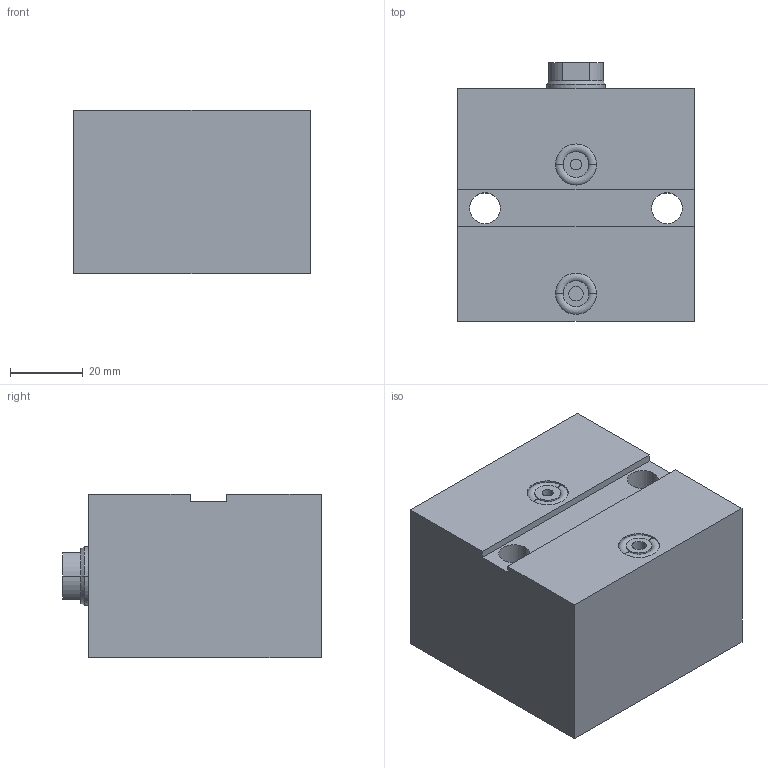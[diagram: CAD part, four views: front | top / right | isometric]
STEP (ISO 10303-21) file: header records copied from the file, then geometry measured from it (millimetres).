
FILE_DESCRIPTION (( 'STEP AP203' ), '1' );
FILE_NAME ('GERMA_Blockzylinder_604-025-020.STEP', '2016-01-08T18:12:47', ( '' ), ( '' ), 'SwSTEP 2.0', 'SolidWorks 2015', '' );
FILE_SCHEMA (( 'CONFIG_CONTROL_DESIGN' ));
Length unit declared in the file: millimetre
Products named in the file (3): GH-600-025_GH-604-025-020; Kolben 60x-025_Kolben DU.25-Hub20-IG; GERMA_Blockzylinder_604-025-020
Assembly tree (2 placements, depth 2):
  GERMA_Blockzylinder_604-025-020
    GH-600-025_GH-604-025-020
    Kolben 60x-025_Kolben DU.25-Hub20-IG
Bounding box: 65 x 71 x 45 mm (x, y, z)
Volume: 175081.2 mm3; surface area: 31614.1 mm2
Topology: 2 solids, 2 shells, 81 faces, 176 edges, 106 vertices
Faces by surface type: cylinder 37, plane 26, cone 14, torus 4
Entity records: 2490 total; most frequent: DIRECTION 431, CARTESIAN_POINT 362, ORIENTED_EDGE 340, AXIS2_PLACEMENT_3D 175, EDGE_CURVE 170, VERTEX_POINT 106, EDGE_LOOP 98, CIRCLE 89
